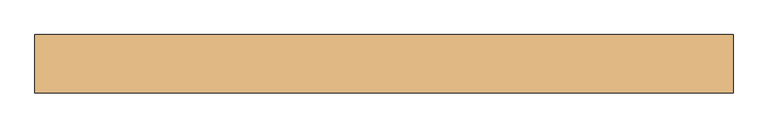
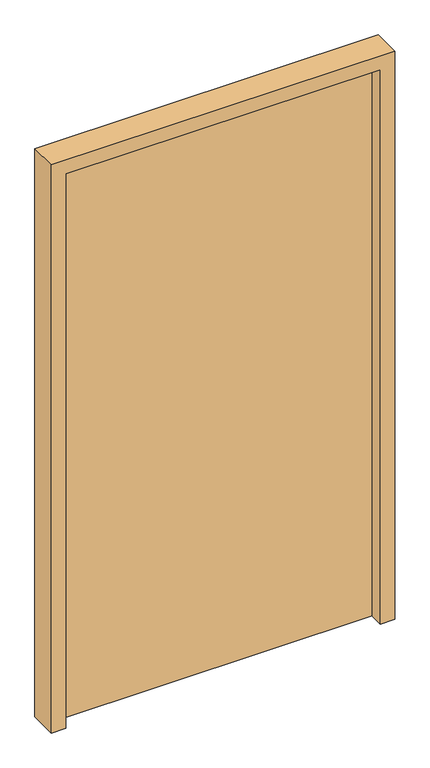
"""IFC4 building model written with IfcOpenShell, lengths in millimetres: door geometry, (Dr)_ДУ(распашная)_1Ст_Прямоугольная : (Вн)_ДГ(1.20х2.1(h))."""

from ifc_helpers import new_model, si_unit, frame, origin, origin_with_axes, place, context, project, spatial, polyline, outline, extrude, source, transform, mapped, element, save


def door_9d3fb36d(model_context):
    return source(origin(), model_context, "Body", "SweptSolid", [
        extrude(outline(polyline([(550.0, 100.0), (550.0, 50.0), (-550.0, 50.0), (-550.0, 100.0), (550.0, 100.0)])), origin_with_axes(), (0.0, 0.0, 1.0), 2050.0),
        extrude(outline(polyline([(0.0, -600.0), (0.0, -550.0), (2050.0, -550.0), (2050.0, 550.0), (0.0, 550.0), (0.0, 600.0), (2100.0, 600.0), (2100.0, -600.0), (0.0, -600.0)])), frame((0.0, 0.0, 0.0), z_axis=(0.0, 1.0, 0.0), x_axis=(0.0, 0.0, 1.0)), (0.0, 0.0, 1.0), 100.0),
    ])


if __name__ == "__main__":
    model = new_model("IFC4")
    model_context = context("Model", 3, world=origin())
    ifc_project = project(units=[si_unit("LENGTHUNIT", "METRE", prefix="MILLI")], contexts=[model_context])
    site = spatial("IfcSite", under=ifc_project)
    building = spatial("IfcBuilding", under=site)
    placement = place(None, origin())
    door_shape = door_9d3fb36d(model_context)
    element("IfcDoor", 1, ObjectType="(Dr)_ДУ(распашная)_1Ст_Прямоугольная : (Вн)_ДГ(1.20х2.1(h))", at=placement, inside=building, context=model_context, shape_type="MappedRepresentation", body=[
        mapped(door_shape, transform((0.0, 0.0, 0.0), x_axis=(1.0, 0.0, 0.0), y_axis=(0.0, 1.0, 0.0), z_axis=(0.0, 0.0, 1.0))),
    ])
    save(model, "model.ifc")
